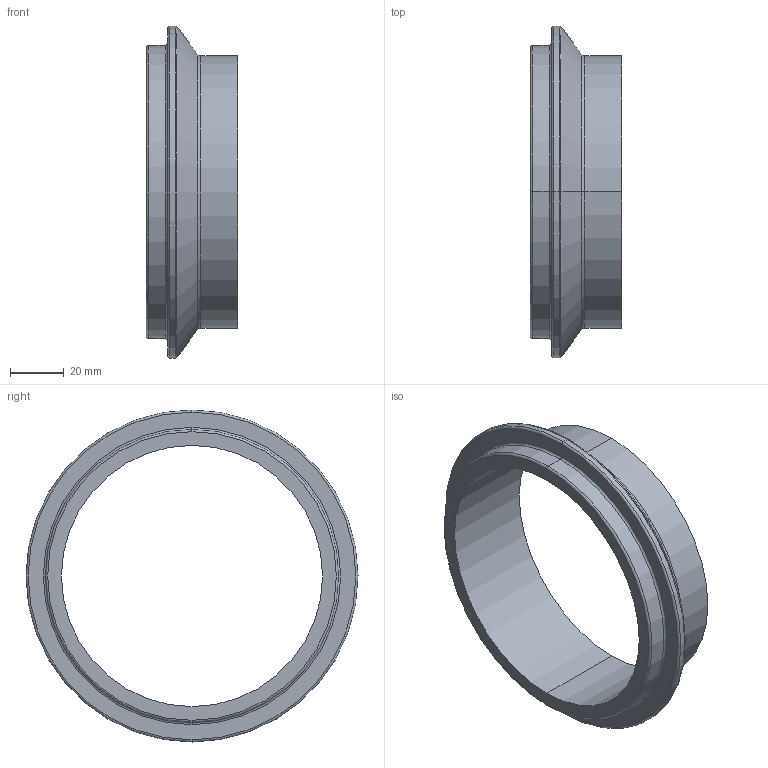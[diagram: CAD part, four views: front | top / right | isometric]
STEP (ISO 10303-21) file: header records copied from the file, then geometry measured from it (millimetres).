
FILE_DESCRIPTION (( 'STEP AP214' ), '1' );
FILE_NAME ('E14WI 4.0 REV2.STEP', '2025-07-18T14:31:50', ( '' ), ( '' ), 'SwSTEP 2.0', 'SolidWorks 2022', '' );
FILE_SCHEMA (( 'AUTOMOTIVE_DESIGN' ));
Length unit declared in the file: inch
Products named in the file (1): E14WI 4.0 REV2
Bounding box: 34.11 x 123.83 x 123.83 mm (x, y, z)
Volume: 61321.9 mm3; surface area: 28816 mm2
Topology: 1 solids, 1 shells, 23 faces, 46 edges, 26 vertices
Faces by surface type: torus 10, cylinder 8, plane 3, cone 2
Entity records: 648 total; most frequent: DIRECTION 130, CARTESIAN_POINT 96, ORIENTED_EDGE 92, AXIS2_PLACEMENT_3D 60, EDGE_CURVE 46, CIRCLE 36, VERTEX_POINT 26, EDGE_LOOP 26
